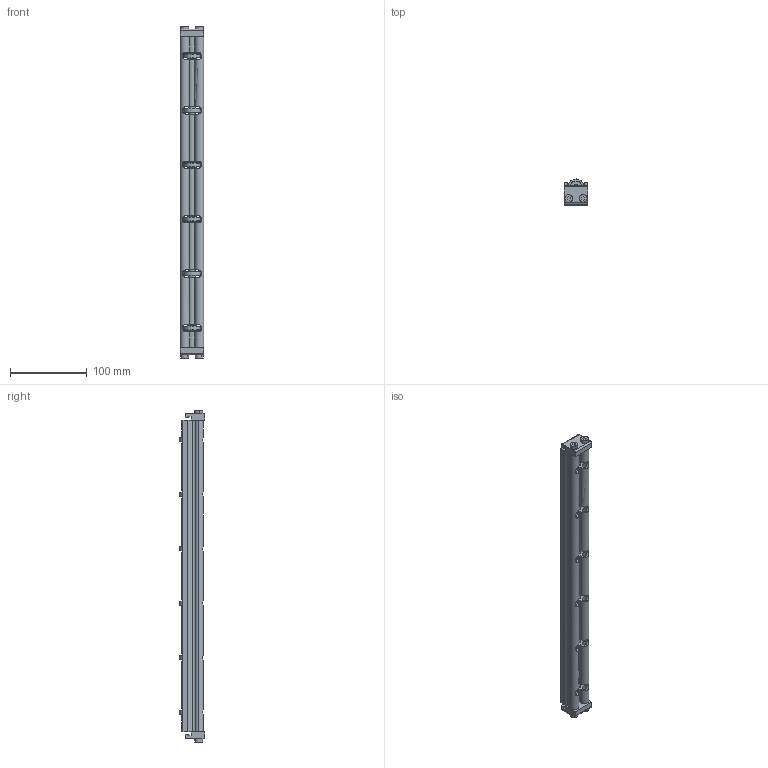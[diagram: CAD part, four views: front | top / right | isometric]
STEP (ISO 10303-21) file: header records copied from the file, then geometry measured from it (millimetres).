
FILE_DESCRIPTION((''),'2;1');
FILE_NAME('324916_ASM','2023-03-14T',('jenni.wallner'),(''),'PRO/ENGINEER BY PARAMETRIC TECHNOLOGY CORPORATION, 2012420','PRO/ENGINEER BY PARAMETRIC TECHNOLOGY CORPORATION, 2012420','');
FILE_SCHEMA(('CONFIG_CONTROL_DESIGN'));
Length unit declared in the file: inch
Products named in the file (7): 240826; X920693M; 240827_CAE; 2436WW_243616; 2410WW_CAE_241016; ASM0001_ASM; 324916_ASM
Assembly tree (15 placements, depth 3):
  324916_ASM
    ASM0001_ASM
      240826  x6
      X920693M  x4
      240827_CAE  x2
      2436WW_243616
      2410WW_CAE_241016
Bounding box: 30.88 x 33.34 x 433.81 mm (x, y, z)
Volume: 205491.7 mm3; surface area: 123958.5 mm2
Topology: 14 solids, 14 shells, 426 faces, 1184 edges, 782 vertices
Faces by surface type: cylinder 192, plane 158, cone 52, torus 24
Entity records: 10417 total; most frequent: CARTESIAN_POINT 2553, DIRECTION 1666, ORIENTED_EDGE 1664, EDGE_CURVE 832, AXIS2_PLACEMENT_3D 636, VERTEX_POINT 554, VECTOR 394, LINE 394
